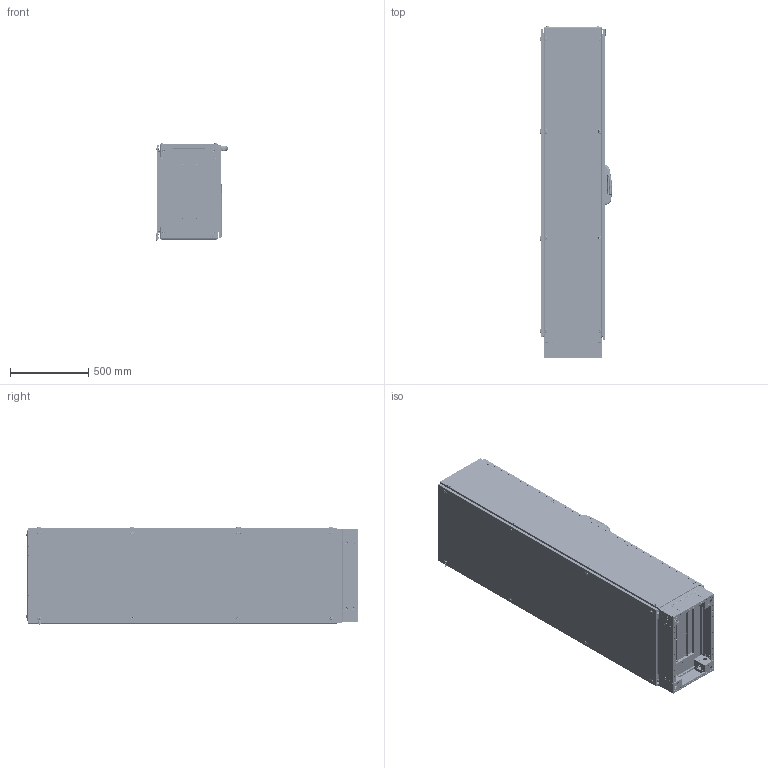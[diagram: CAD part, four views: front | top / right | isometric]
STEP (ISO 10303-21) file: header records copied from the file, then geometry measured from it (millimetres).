
FILE_DESCRIPTION (( 'STEP AP203' ), '1' );
FILE_NAME ('706.04 600x2000x400.STEP', '2020-04-04T15:22:17', ( '' ), ( '' ), 'SwSTEP 2.0', 'SolidWorks 2019', '' );
FILE_SCHEMA (( 'CONFIG_CONTROL_DESIGN' ));
Length unit declared in the file: millimetre
Products named in the file (124): ENINE DELIKLI PROFIL_600; on citaVER3 teos26-12_600; TEOS Kilit Üst Çubuk_2000--MP 16.0130; BAZA KÖÞES_SOL; BAZA KÖÞES_SAG; Montaj PlakAsi aaaaa 3mm_PP 12.0098 600x2000; MP 18.7631 Kol-Cark; V2 BAZA KOSESI2015_100; yan arka kapak baglantý saci orta; M6 HAVÞA PLASTÝK CÝVATA; 252016-2; TEOS Kilit Alt Çubuk_2000; mentese orta 09-201; percinli taban-vidalý kapak-kose pls yok_701.640-60X40 ALT; TEOS Kilit Üst Çubuk Montaj_2000H; MP 18.7631 Modul; MP 14.0007 M6 PLASTÝK HAVSA; BOYUNA DELIKLI PROFIL_2000; Teos-Neo MP Durdurucu Destek; MP 18.7631 Kayar Parça; TEOS Kilit Çubuk Dili; mentese ust alt 09-2010; 03-TABAN SACI U1 04-2012_PP 12.0040 - 600-75; yan arka kapak baglantý saci; MP 18.7631 32002136; PB 14.0004 M6 HAVÞA PLASTÝK CÝVATA; TEOS Kilit Çubuk Pimi; M6 KAFES SOMU2015; 03-KOSE PUNT_PP 12.0027; pan head cross recess screw_iso_ISO 7045 - M5 x 10 - Z --- 10C; M8 KAFES SOMUN_m8; arka kapi 1,5 mm gecme askili 09-2014 R3_PP 12.0077 600x2000; kapali dikey profilkenetli_ita oluklu10-aaaaaaaaaaaa-1_600; MP 14.0006 PVC SIZDIRMAZLIK CONTASI; MP 18.7631 204 handle REV04 tekpan logo; flat head screw_am_B18.6.7M - M6 x 1.0 x 20 Type I Cross Recessed FHMS --20N; 03taban derinlik percinli_PP 12.0023 - 400; M5 DÝKEY PROFÝL RONDELA; 03-2012 sac kilit dil 10-2010 ORTA; TEOS-NEO MP Sol Dayama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
Assembly tree (387 placements, depth 7):
  706.04 600x2000x400
    TEOS iskelet_600x2000x400
      kapali dikey profilkenetli_ita oluklu10-aaaaaaaaaaaa-1_2000   x4
      kapali dikey profilkenetli_ita oluklu10-aaaaaaaaaaaa-1_400  x4
      kapali dikey profilkenetli_ita oluklu10-aaaaaaaaaaaa-1_600  x4
      L KOSE DESTEKorj1  x8
      kose rondela kabartmaSIZ 10  x15
      kose rondela kabartmaSIZ 12
      MP 11.0140 TEOS ALUMINYUM KOSE APPROVED 16.08.2010  x8
      M5 DÝKEY PROFÝL RONDELA  x16
      percinli taban-vidalý kapak-kose pls yok_701.640-60X40 ALT
        03-taban genislik percinli 04 - 2012 100-120_PP 12.0019 - 600  x2
        03taban derinlik percinli_PP 12.0023 - 400  x2
        03-KOSE PUNT_PP 12.0027
        03-KOSE PUNT
        Mirror03-KOSE PUNT  x2
        TEOS V2 BAZA S嵞TEM廆600X400
          BAZA KÖÞES_SAG
            V2 BAZA KOSESI2015_100
            BAZA SISTEMIV2-6 baza kapaðý201550x40_TEKPAN LOGOLU
            M6 KAFES SOMU2015
              kafes somun kafes
              somu
            M6 KAFES SOMU2015
              kafes somun kafes
              somu
          V2 -2011 DT BAZA KAPAGI ON_PP 12.0045 - 600  x2
          BAZA KÖÞES_SOL
            V2 BAZA KOSESI2015_100
            BAZA SISTEMIV2-6 baza kapaðý201550x40
            M6 KAFES SOMU2015
              kafes somun kafes
              somu
            M6 KAFES SOMU2015
              kafes somun kafes
              somu
          BAZA KÖÞES_SAG
            V2 BAZA KOSESI2015_100
            BAZA SISTEMIV2-6 baza kapaðý201550x40_TEKPAN LOGOLU
            M6 KAFES SOMU2015
              kafes somun kafes
              somu
            M6 KAFES SOMU2015
              kafes somun kafes
              somu
          BAZA KÖÞES_SOL
            V2 BAZA KOSESI2015_100
            BAZA SISTEMIV2-6 baza kapaðý201550x40
            M6 KAFES SOMU2015
              kafes somun kafes
              somu
            M6 KAFES SOMU2015
              kafes somun kafes
              somu
          V3 -2011 DT BAZA KAPAGI yan_PP 12.0049 - 400  x2
          flat head screw_am_B18.6.7M - M6 x 1.0 x 20 Type I Cross Recessed FHMS --20N  x8
        03-TABAN SACI SURGU_PP 12.0030 - 600
        03-TABAN SACI U1 04-2012_PP 12.0040 - 600-75  x2
        mp aLT DAYAMA_PP 12.0091 - 400  x2
      yan arka kapak baglantý saci  x4
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Bounding box: 458.08 x 2117.1 x 623.59 mm (x, y, z)
Volume: 17996315.4 mm3; surface area: 18700182.7 mm2
Topology: 333 solids, 373 shells, 50556 faces, 136930 edges, 86819 vertices
Faces by surface type: plane 32160, cylinder 13463, bspline 2211, torus 1147, cone 966, sphere 609
Entity records: 698393 total; most frequent: CARTESIAN_POINT 293720, ORIENTED_EDGE 82326, DIRECTION 75748, EDGE_CURVE 41163, LINE 27494, VECTOR 27494, VERTEX_POINT 26346, AXIS2_PLACEMENT_3D 24127
